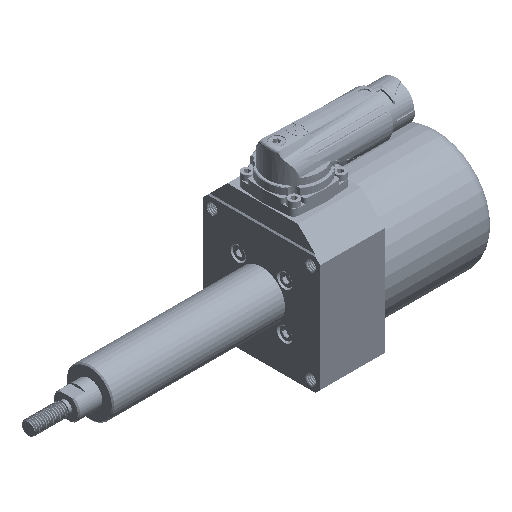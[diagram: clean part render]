
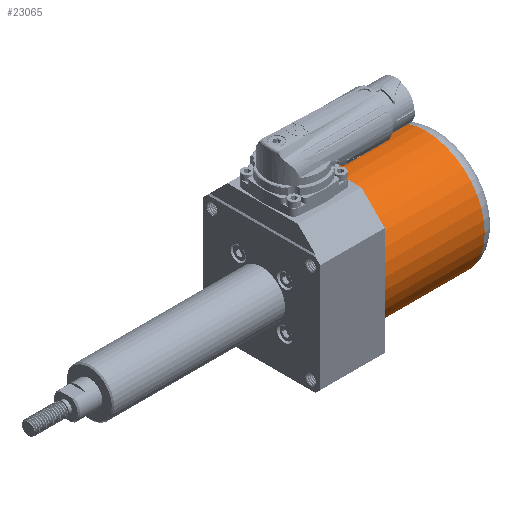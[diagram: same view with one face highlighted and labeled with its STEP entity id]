
A CAD part, isometric view. The second image highlights one B-rep face of the part: STEP entity #23065.
In plain terms, the highlighted cylindrical face has radius 25 mm (diameter 50 mm), a full revolution.
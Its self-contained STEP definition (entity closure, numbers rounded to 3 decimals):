
#2491=FACE_OUTER_BOUND('',#3953,.T.);
#3953=EDGE_LOOP('',(#20336,#20337,#20338,#20339,#20340,#20341));
#5734=CIRCLE('',#25067,25.);
#5736=CIRCLE('',#25070,25.);
#5737=CIRCLE('',#25071,25.);
#5738=CIRCLE('',#25072,25.);
#7249=LINE('',#60012,#8789);
#8789=VECTOR('',#30414,25.);
#11030=VERTEX_POINT('',#60003);
#11031=VERTEX_POINT('',#60007);
#11032=VERTEX_POINT('',#60008);
#11033=VERTEX_POINT('',#60010);
#14325=EDGE_CURVE('',#11030,#11030,#5734,.T.);
#14327=EDGE_CURVE('',#11031,#11032,#5736,.T.);
#14328=EDGE_CURVE('',#11033,#11031,#5737,.T.);
#14329=EDGE_CURVE('',#11033,#11030,#7249,.T.);
#14330=EDGE_CURVE('',#11032,#11033,#5738,.T.);
#20336=ORIENTED_EDGE('',*,*,#14327,.F.);
#20337=ORIENTED_EDGE('',*,*,#14328,.F.);
#20338=ORIENTED_EDGE('',*,*,#14329,.T.);
#20339=ORIENTED_EDGE('',*,*,#14325,.T.);
#20340=ORIENTED_EDGE('',*,*,#14329,.F.);
#20341=ORIENTED_EDGE('',*,*,#14330,.F.);
#21797=CYLINDRICAL_SURFACE('',#25069,25.);
#23065=ADVANCED_FACE('',(#2491),#21797,.T.);
#25067=AXIS2_PLACEMENT_3D('',#60004,#30404,#30405);
#25069=AXIS2_PLACEMENT_3D('',#60006,#30408,#30409);
#25070=AXIS2_PLACEMENT_3D('',#60009,#30410,#30411);
#25071=AXIS2_PLACEMENT_3D('',#60011,#30412,#30413);
#25072=AXIS2_PLACEMENT_3D('',#60013,#30415,#30416);
#30404=DIRECTION('center_axis',(-1.,0.,0.));
#30405=DIRECTION('ref_axis',(0.,0.,1.));
#30408=DIRECTION('center_axis',(-1.,0.,0.));
#30409=DIRECTION('ref_axis',(0.,0.,1.));
#30410=DIRECTION('center_axis',(-1.,0.,0.));
#30411=DIRECTION('ref_axis',(0.,0.,1.));
#30412=DIRECTION('center_axis',(-1.,0.,0.));
#30413=DIRECTION('ref_axis',(0.,0.,1.));
#30414=DIRECTION('',(1.,0.,0.));
#30415=DIRECTION('center_axis',(-1.,0.,0.));
#30416=DIRECTION('ref_axis',(0.,0.,1.));
#60003=CARTESIAN_POINT('',(70.,0.,-25.));
#60004=CARTESIAN_POINT('Origin',(70.,0.,0.));
#60006=CARTESIAN_POINT('Origin',(48.75,0.,0.));
#60007=CARTESIAN_POINT('',(27.5,-25.,0.));
#60008=CARTESIAN_POINT('',(27.5,25.,0.));
#60009=CARTESIAN_POINT('Origin',(27.5,0.,0.));
#60010=CARTESIAN_POINT('',(27.5,0.,-25.));
#60011=CARTESIAN_POINT('Origin',(27.5,0.,0.));
#60012=CARTESIAN_POINT('',(48.75,0.,-25.));
#60013=CARTESIAN_POINT('Origin',(27.5,0.,0.));
